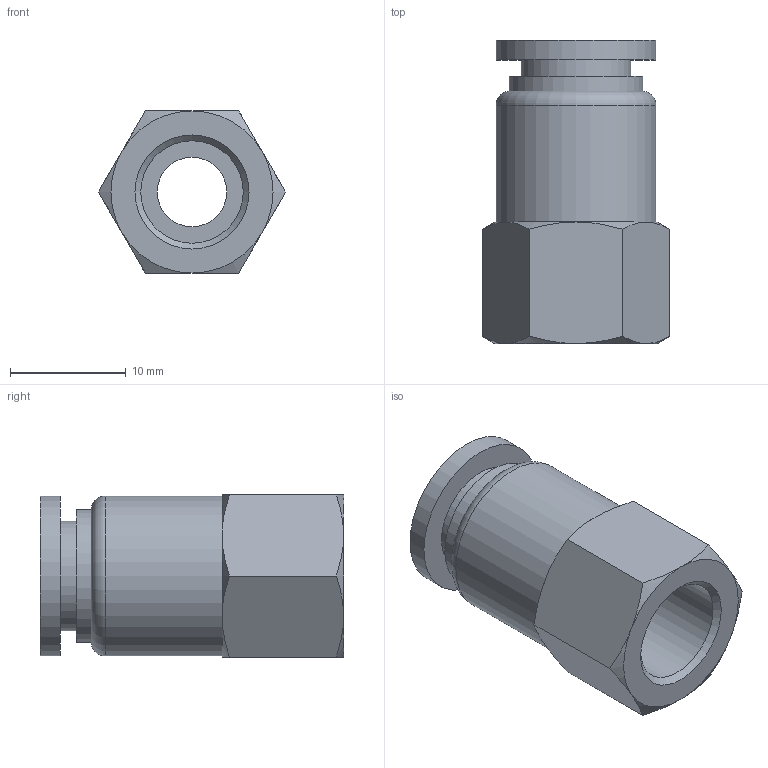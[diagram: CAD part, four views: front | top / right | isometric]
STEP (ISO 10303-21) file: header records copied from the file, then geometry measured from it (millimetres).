
FILE_DESCRIPTION(/* description */ (''),/* implementation_level */ '2;1');
FILE_NAME(/* name */ 'S:\_Tecnico\ArchivioUT\_Disegni3D ingombri\DISEGNI 3D per ingombri\RP\RP 52\RP521808.stp',/* time_stamp */ '2019-07-29T10:20:12+02:00',/* author */ ('ufficiotecnico3'),/* organization */ (''),/* preprocessor_version */ 'ST-DEVELOPER v18',/* originating_system */ 'Autodesk Inventor 2020',/* authorisation */ '');
FILE_SCHEMA (('AUTOMOTIVE_DESIGN { 1 0 10303 214 3 1 1 }'));
Length unit declared in the file: millimetre
Products named in the file (1): RP521808
Bounding box: 16.17 x 26.2 x 14 mm (x, y, z)
Volume: 2552.6 mm3; surface area: 2228.8 mm2
Topology: 1 solids, 1 shells, 34 faces, 78 edges, 51 vertices
Faces by surface type: cone 13, plane 13, cylinder 7, torus 1
Full cylindrical faces by diameter (mm): 6 x1, 8 x1, 8.848 x1, 9.5 x1, 11.5 x1, 13.8 x2
Entity records: 999 total; most frequent: CARTESIAN_POINT 212, DIRECTION 164, ORIENTED_EDGE 156, EDGE_CURVE 78, AXIS2_PLACEMENT_3D 75, VERTEX_POINT 51, EDGE_LOOP 41, CIRCLE 40
